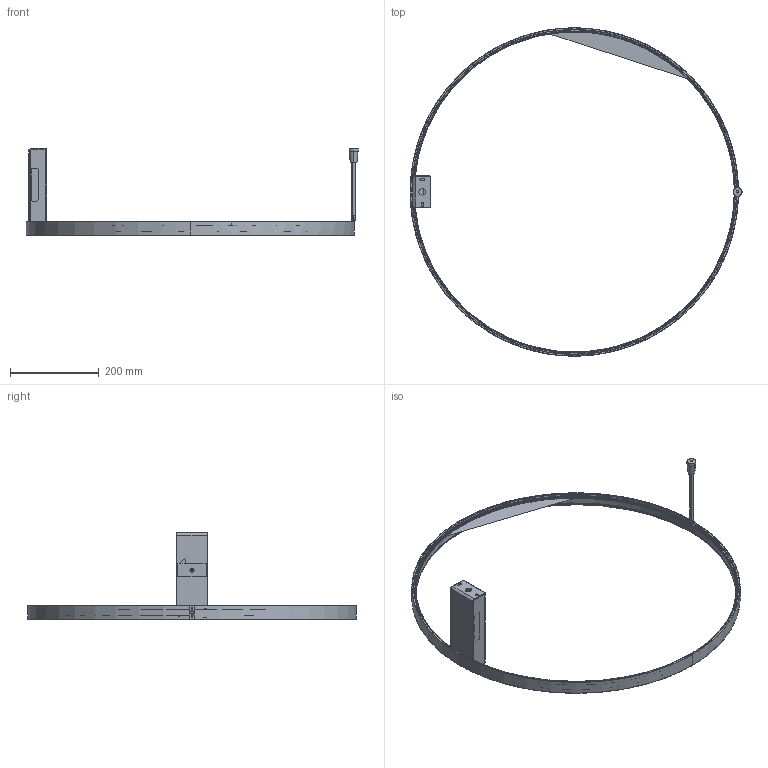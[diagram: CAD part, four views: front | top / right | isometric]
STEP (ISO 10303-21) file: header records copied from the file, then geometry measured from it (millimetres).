
FILE_DESCRIPTION(/* description */ (''),/* implementation_level */ '2;1');
FILE_NAME(/* name */ 'Zero Round P153__.075',/* time_stamp */ '2025-05-29T09:54:17+02:00',/* author */ (''),/* organization */ (''),/* preprocessor_version */ 'ST-DEVELOPER v16.5',/* originating_system */ '',/* authorisation */ '');
FILE_SCHEMA (('AUTOMOTIVE_DESIGN'));
Length unit declared in the file: millimetre
Products named in the file (10): Document; 3300.0301000.00 (profilo curvo Zero Round plafoniera ALL 7,7x30mm D e
st. 738mm)_3306.0301360.00; 3100.0026000.00 (schermo estruso Giplast 09PE79 PC 19x3,8mm per curva
 D int. 720mm)_3101.0026360.98; 3200.0515000.00 (scatola alimentazione con staffa e squadretta ACC 71
,5x42,2mm)_3210.0515019.00; 3200.0512000.00 (staffa scatola alimentazione ACC 69x74x18,2mm sp 1,2
)_3209.0512000.00; 3200.0513000.00 (squadretta scatola alimentazione ACC 50x22,6mm sp 2)
_3209.0513002.00; 3200.0510000.00 (scatola alimentazione ACC 71,5x42,2mm sp 1,2)_3209.0
510019.00; 3200.0508000.00 (staffa di fissaggio a plafone ACC 68,9x39,2mm sp 2,5
)_3209.0508017.00; 5401.0031000.00 (molla in nastro sagomata ACC INOX 10x31x5mm sp 0,4)_
5401.0031000.00; socket countersunk head screw_iso_ISO 10642 - M4 x 8 - 8N
Assembly tree (9 placements, depth 3):
  Document
    3300.0301000.00 (profilo curvo Zero Round plafoniera ALL 7,7x30mm D e
st. 738mm)_3306.0301360.00
    3100.0026000.00 (schermo estruso Giplast 09PE79 PC 19x3,8mm per curva
 D int. 720mm)_3101.0026360.98
    3200.0515000.00 (scatola alimentazione con staffa e squadretta ACC 71
,5x42,2mm)_3210.0515019.00
      3200.0512000.00 (staffa scatola alimentazione ACC 69x74x18,2mm sp 1,2
)_3209.0512000.00
      3200.0513000.00 (squadretta scatola alimentazione ACC 50x22,6mm sp 2)
_3209.0513002.00
      3200.0510000.00 (scatola alimentazione ACC 71,5x42,2mm sp 1,2)_3209.0
510019.00
    3200.0508000.00 (staffa di fissaggio a plafone ACC 68,9x39,2mm sp 2,5
)_3209.0508017.00
    5401.0031000.00 (molla in nastro sagomata ACC INOX 10x31x5mm sp 0,4)_
5401.0031000.00
    socket countersunk head screw_iso_ISO 10642 - M4 x 8 - 8N
Bounding box: 746.38 x 738 x 194.95 mm (x, y, z)
Volume: 468587.3 mm3; surface area: 422911.3 mm2
Topology: 10 solids, 10 shells, 483 faces, 1183 edges, 715 vertices
Faces by surface type: bspline 299, plane 184
Entity records: 22772 total; most frequent: CARTESIAN_POINT 15553, ORIENTED_EDGE 2352, EDGE_CURVE 1176, VERTEX_POINT 715, B_SPLINE_CURVE_WITH_KNOTS 614, EDGE_LOOP 507, ADVANCED_FACE 483, FACE_OUTER_BOUND 483
